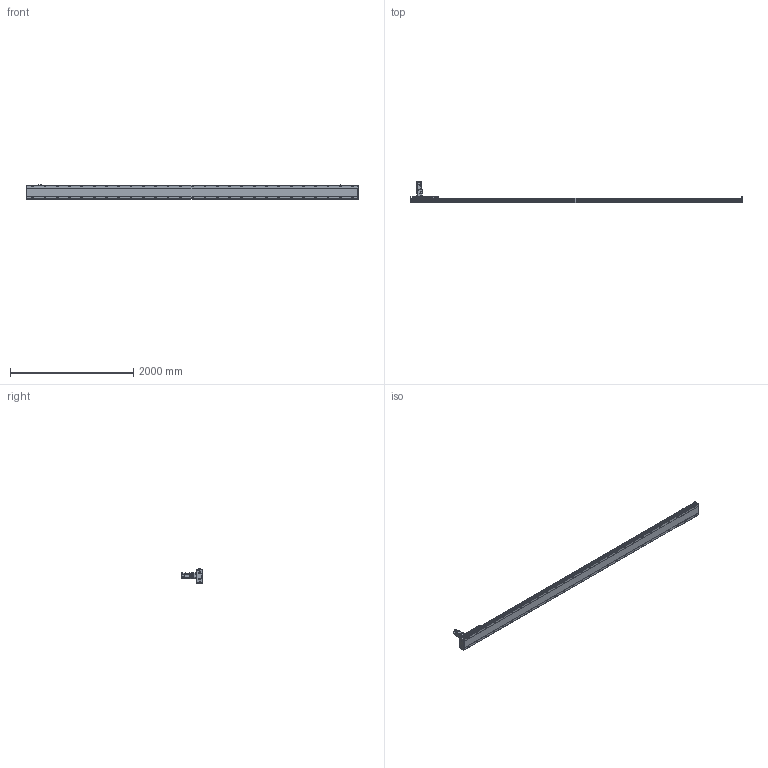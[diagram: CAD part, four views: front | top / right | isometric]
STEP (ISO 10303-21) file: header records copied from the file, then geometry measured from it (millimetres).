
FILE_DESCRIPTION(/* description */ ('STEP AP214'),/* implementation_level */ '2;1');
FILE_NAME(/* name */ 'SHS22A-L13-S4900-BC-T75-C1-N(0)',/* time_stamp */ '2022-06-15T02:29:10+02:00',/* author */ ('License CC BY-ND 4.0'),/* organization */ ('CADENAS'),/* preprocessor_version */ 'ST-DEVELOPER v18.102',/* originating_system */ 'PARTsolutions',/* authorisation */ ' ');
FILE_SCHEMA (('AUTOMOTIVE_DESIGN {1 0 10303 214 3 1 1}'));
Length unit declared in the file: millimetre
Products named in the file (7): SHS22A-L13-S4900-BC-T75-C1-N(0); PSC140-sensor; SHS22A-S4900_body2; T75-p1; SHS22A-S4900_body3; SHS22A-S4900_slider; SHS22A-L13-S4900-BC-T75-C1(0)_body
Assembly tree (13 placements, depth 2):
  SHS22A-L13-S4900-BC-T75-C1-N(0)
    PSC140-sensor  x3
    SHS22A-S4900_body2  x6
    T75-p1
    SHS22A-S4900_body3
    SHS22A-S4900_slider
    SHS22A-L13-S4900-BC-T75-C1(0)_body
Bounding box: 5394 x 350.8 x 238.4 mm (x, y, z)
Volume: 56896958.6 mm3; surface area: 5778960.1 mm2
Topology: 13 solids, 13 shells, 2025 faces, 5171 edges, 3382 vertices
Faces by surface type: plane 1388, cylinder 509, cone 119, torus 9
Full cylindrical faces by diameter (mm): 2.8 x3, 4.2 x2, 4.6 x3, 4.917 x4, 5 x4, 5.6 x24, 6 x31, 6.6 x24, 6.647 x8, 6.8 x9, 7.75 x6, 8 x3, 8.376 x54, 8.5 x54, 10 x4, 11 x4, 12 x24, 14 x54, 22 x1, 24.1 x1, 28 x1, 28.2 x1, 28.8 x1, 48.542 x1, 68 x1, 70 x1, 78 x1, 80 x2
Entity records: 35026 total; most frequent: CARTESIAN_POINT 6395, DIRECTION 5945, ORIENTED_EDGE 5232, EDGE_CURVE 2616, AXIS2_PLACEMENT_3D 2174, FACE_BOUND 1942, EDGE_LOOP 1941, VERTEX_POINT 1918
